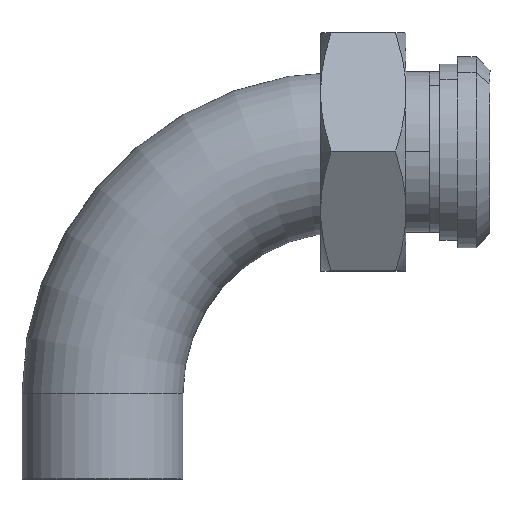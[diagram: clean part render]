
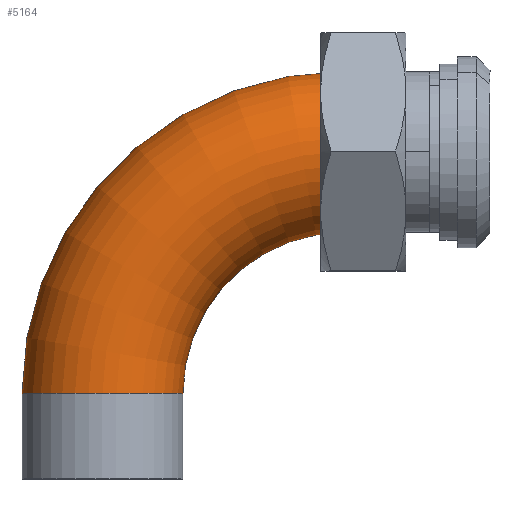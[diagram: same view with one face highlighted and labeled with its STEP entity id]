
A CAD part, top view. The second image highlights one B-rep face of the part: STEP entity #5164.
In plain terms, the highlighted toroidal (fillet/blend) face has major radius 76.2 mm and minor radius 25.4 mm.
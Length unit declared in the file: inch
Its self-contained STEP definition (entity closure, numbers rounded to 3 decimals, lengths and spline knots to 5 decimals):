
#75 = AXIS2_PLACEMENT_3D ( 'NONE', #2726, #6097, #3216 ) ;
#261 = ORIENTED_EDGE ( 'NONE', *, *, #488, .T. ) ;
#321 = DIRECTION ( 'NONE',  ( 0., 0., -1. ) ) ;
#417 = VERTEX_POINT ( 'NONE', #1528 ) ;
#462 = ORIENTED_EDGE ( 'NONE', *, *, #1121, .T. ) ;
#488 = EDGE_CURVE ( 'NONE', #417, #4345, #733, .T. ) ;
#615 = CIRCLE ( 'NONE', #5191, 1. ) ;
#733 = CIRCLE ( 'NONE', #773, 2. ) ;
#773 = AXIS2_PLACEMENT_3D ( 'NONE', #3206, #321, #3706 ) ;
#1081 = CARTESIAN_POINT ( 'NONE',  ( 3., 0., 1. ) ) ;
#1096 = CIRCLE ( 'NONE', #5143, 4. ) ;
#1121 = EDGE_CURVE ( 'NONE', #4345, #4732, #2080, .T. ) ;
#1288 = CARTESIAN_POINT ( 'NONE',  ( 3., 0., 0. ) ) ;
#1310 = ORIENTED_EDGE ( 'NONE', *, *, #3723, .F. ) ;
#1343 = CARTESIAN_POINT ( 'NONE',  ( 3., -3., 0. ) ) ;
#1521 = CARTESIAN_POINT ( 'NONE',  ( 3., -1., 0. ) ) ;
#1528 = CARTESIAN_POINT ( 'NONE',  ( 1., -3., 0. ) ) ;
#1573 = DIRECTION ( 'NONE',  ( 0., 0., -1. ) ) ;
#1769 = DIRECTION ( 'NONE',  ( 0., -1., 0. ) ) ;
#1796 = AXIS2_PLACEMENT_3D ( 'NONE', #1343, #6148, #4723 ) ;
#2080 = CIRCLE ( 'NONE', #6095, 1. ) ;
#2251 = DIRECTION ( 'NONE',  ( -1., 0., 0. ) ) ;
#2261 = FACE_OUTER_BOUND ( 'NONE', #6036, .T. ) ;
#2431 = ORIENTED_EDGE ( 'NONE', *, *, #4769, .T. ) ;
#2469 = VERTEX_POINT ( 'NONE', #4893 ) ;
#2726 = CARTESIAN_POINT ( 'NONE',  ( 0., -3., 0. ) ) ;
#3206 = CARTESIAN_POINT ( 'NONE',  ( 3., -3., 0. ) ) ;
#3216 = DIRECTION ( 'NONE',  ( 1., 0., 0. ) ) ;
#3472 = EDGE_CURVE ( 'NONE', #417, #2469, #4665, .T. ) ;
#3706 = DIRECTION ( 'NONE',  ( -1., 0., 0. ) ) ;
#3723 = EDGE_CURVE ( 'NONE', #2469, #4866, #1096, .T. ) ;
#4208 = ORIENTED_EDGE ( 'NONE', *, *, #3472, .F. ) ;
#4345 = VERTEX_POINT ( 'NONE', #1521 ) ;
#4468 = CARTESIAN_POINT ( 'NONE',  ( 3., -3., 0. ) ) ;
#4665 = CIRCLE ( 'NONE', #75, 1. ) ;
#4668 = DIRECTION ( 'NONE',  ( -1., 0., 0. ) ) ;
#4723 = DIRECTION ( 'NONE',  ( -1., 0., 0. ) ) ;
#4732 = VERTEX_POINT ( 'NONE', #1081 ) ;
#4769 = EDGE_CURVE ( 'NONE', #4732, #4866, #615, .T. ) ;
#4866 = VERTEX_POINT ( 'NONE', #4932 ) ;
#4893 = CARTESIAN_POINT ( 'NONE',  ( -1., -3., 0. ) ) ;
#4932 = CARTESIAN_POINT ( 'NONE',  ( 3., 1., 0. ) ) ;
#4942 = DIRECTION ( 'NONE',  ( -1., 0., 0. ) ) ;
#5136 = CARTESIAN_POINT ( 'NONE',  ( 3., 0., 0. ) ) ;
#5143 = AXIS2_PLACEMENT_3D ( 'NONE', #4468, #1573, #4942 ) ;
#5164 = ADVANCED_FACE ( 'NONE', ( #2261 ), #5957, .T. ) ;
#5191 = AXIS2_PLACEMENT_3D ( 'NONE', #1288, #4668, #1769 ) ;
#5621 = DIRECTION ( 'NONE',  ( 0., -1., 0. ) ) ;
#5957 = TOROIDAL_SURFACE ( 'NONE', #1796, 3., 1. ) ;
#6036 = EDGE_LOOP ( 'NONE', ( #1310, #4208, #261, #462, #2431 ) ) ;
#6095 = AXIS2_PLACEMENT_3D ( 'NONE', #5136, #2251, #5621 ) ;
#6097 = DIRECTION ( 'NONE',  ( 0., -1., 0. ) ) ;
#6148 = DIRECTION ( 'NONE',  ( 0., 0., -1. ) ) ;
